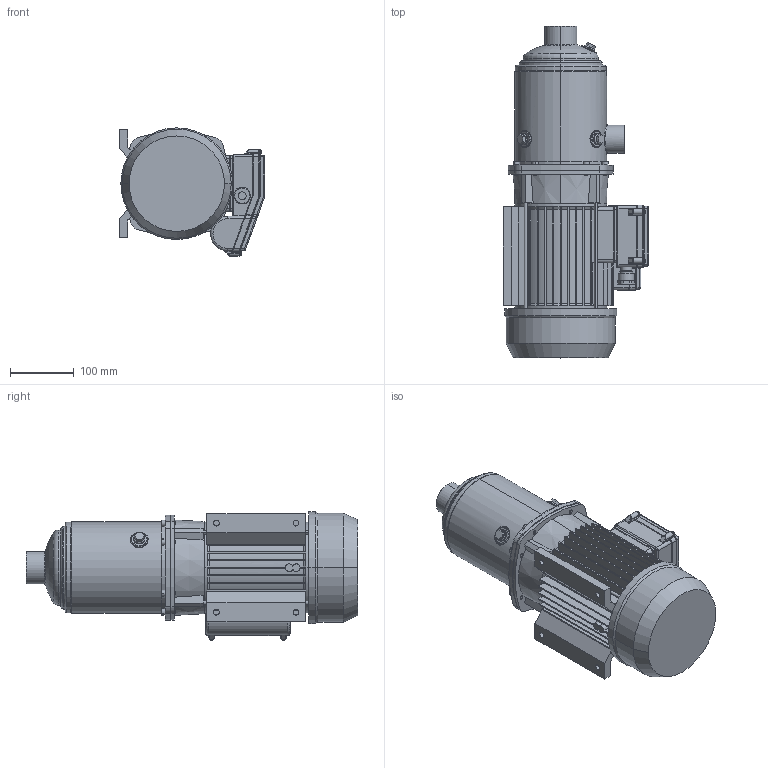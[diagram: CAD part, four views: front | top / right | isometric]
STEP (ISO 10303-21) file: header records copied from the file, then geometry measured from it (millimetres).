
FILE_DESCRIPTION((''),'2;1');
FILE_NAME('MATRIX_10-5T_2_2_M_ASM','2017-04-07T',('rosa'),('"Ebara Pumps Europe +39.444.706811"'),'PRO/ENGINEER BY PARAMETRIC TECHNOLOGY CORPORATION, 2012130','PRO/ENGINEER BY PARAMETRIC TECHNOLOGY CORPORATION, 2012130','');
FILE_SCHEMA(('AUTOMOTIVE_DESIGN { 1 0 10303 214 1 1 1 1 }'));
Length unit declared in the file: millimetre
Products named in the file (5): CORPO_POMPA_MATRIX_10-5; SUPPORTO_MATRIX_MEC_90; MEC_90X120_MONOFASE_ZAMP; COPRIMORSETTIERA_MEC80_90_M; MATRIX_10-5T_2_2_M_ASM
Assembly tree (4 placements, depth 2):
  MATRIX_10-5T_2_2_M_ASM
    CORPO_POMPA_MATRIX_10-5
    SUPPORTO_MATRIX_MEC_90
    MEC_90X120_MONOFASE_ZAMP
    COPRIMORSETTIERA_MEC80_90_M
Bounding box: 228 x 521.8 x 201.8 mm (x, y, z)
Volume: 7393724.3 mm3; surface area: 712402.1 mm2
Topology: 4 solids, 4 shells, 908 faces, 2158 edges, 1305 vertices
Faces by surface type: plane 401, cylinder 295, cone 104, bspline 56, torus 48, sphere 4
Entity records: 36915 total; most frequent: CARTESIAN_POINT 8825, DIRECTION 4430, ORIENTED_EDGE 4316, PRESENTATION_STYLE_ASSIGNMENT 2162, STYLED_ITEM 2162, CURVE_STYLE 2158, EDGE_CURVE 2158, AXIS2_PLACEMENT_3D 1707
